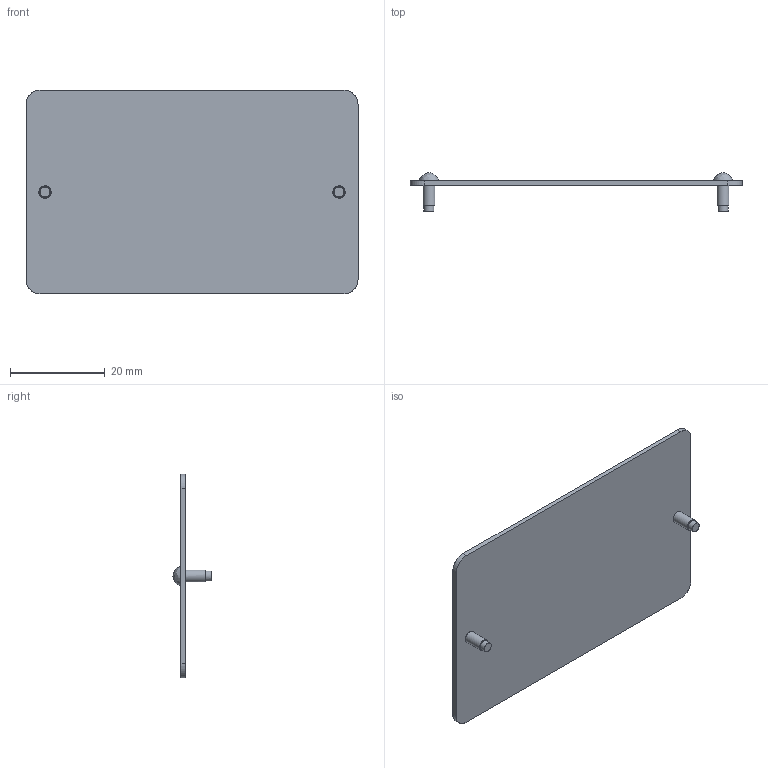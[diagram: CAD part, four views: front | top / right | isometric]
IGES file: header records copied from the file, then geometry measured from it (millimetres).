
Start section: VISI Layer Mapping Iges    VISI  0      LAYER0  1      WARNINGS
Global section: file name: G:\Produktkommunikation\Support\CD-Online-Katalog\3D Daten Produkte\E19120\STEP\E19120_4370_1_2.igs; native system: VISI 20.0; preprocessor: 2.0; author: nus; organization: Unknown; date: 20140919.102433; units: millimetre
Bounding box: 70 x 8.1 x 43 mm (x, y, z)
Surface area: 6389.2 mm2 (no closed solid volume)
Topology: 0 solids, 0 shells, 24 faces, 352 edges, 340 vertices
Faces by surface type: bspline 24
